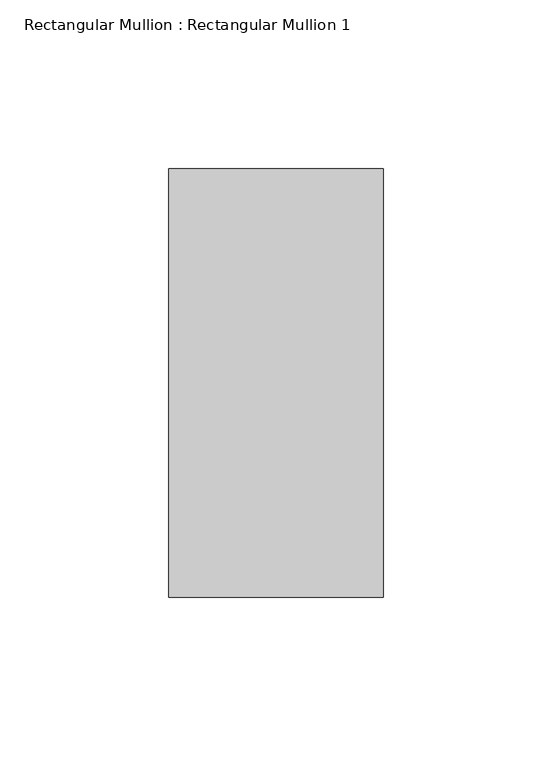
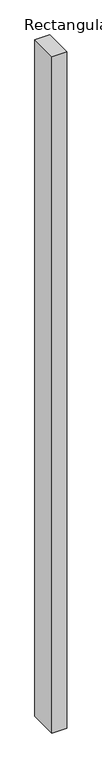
"""IFC4 building model written with IfcOpenShell, lengths in millimetres: member geometry, Rectangular Mullion : Rectangular Mullion 1."""

import ifcopenshell
import ifcopenshell.guid

model = None  # the IFC model being written
_history = None  # IfcOwnerHistory: only IFC2X3 demands one
_inside = {}  # id of a spatial element -> (the spatial element, [elements in it])
_under = {}  # id of a project, library or spatial element -> (it, [spatial elements below it])
_declared = {}  # id of a project -> (the project, [libraries it declares])
_typed = {}  # id of a type object -> (the type object, [elements of that type])
_made_of = {}  # id of a material, layer set ... -> (it, [elements and type objects made of it])


def new_model(schema):
    """Start an empty IFC model of exactly this schema.

    Asked for "IFC4X3", IfcOpenShell would pick the latest addendum, in which some entities
    have other attributes; the version numbers below select the first issue.
    IFC2X3 requires an IfcOwnerHistory on every rooted entity: one is made here for all.
    """
    global model, _history
    if schema == "IFC4X3":
        model = ifcopenshell.file(schema_version=(4, 3, 0, 0))
    else:
        model = ifcopenshell.file(schema=schema)
    _inside.clear()
    _under.clear()
    _declared.clear()
    _typed.clear()
    _made_of.clear()
    _history = None
    if model.schema == "IFC2X3":
        org = make("IfcOrganization", Name="unknown")
        user = make(
            "IfcPersonAndOrganization",
            ThePerson=make("IfcPerson", FamilyName="unknown"),
            TheOrganization=org,
        )
        app = make(
            "IfcApplication",
            ApplicationDeveloper=org,
            Version="unknown",
            ApplicationFullName="unknown",
            ApplicationIdentifier="unknown",
        )
        _history = make(
            "IfcOwnerHistory",
            OwningUser=user,
            OwningApplication=app,
            ChangeAction="ADDED",
            CreationDate=0,
        )
    return model


def make(cls, **values):
    """One entity of the class cls with the attributes given. An attribute that is None is left unset."""
    return model.create_entity(
        cls, **{name: value for name, value in values.items() if value is not None}
    )


def rooted(cls, **values):
    """An entity with a GlobalId (a new one), such as an element, a storey or a relation."""
    return make(cls, GlobalId=ifcopenshell.guid.new(), OwnerHistory=_history, **values)


def si_unit(unit_type, name, prefix=None):
    """IfcSIUnit, for example si_unit("LENGTHUNIT", "METRE", prefix="MILLI")."""
    return make("IfcSIUnit", UnitType=unit_type, Prefix=prefix, Name=name)


def assignment(units):
    """IfcUnitAssignment: the units of a project."""
    return None if units is None else make("IfcUnitAssignment", Units=units)


def point(xyz):
    """IfcCartesianPoint."""
    return None if xyz is None else make("IfcCartesianPoint", Coordinates=xyz)


def direction(xyz):
    """IfcDirection."""
    return None if xyz is None else make("IfcDirection", DirectionRatios=xyz)


def frame(location, z_axis=None, x_axis=None):
    """IfcAxis2Placement3D, a coordinate frame: its origin and axes. An axis left out is left unset."""
    return make(
        "IfcAxis2Placement3D",
        Location=point(location),
        Axis=direction(z_axis),
        RefDirection=direction(x_axis),
    )


def origin():
    """The frame at (0, 0, 0) with its axes left unset."""
    return frame((0.0, 0.0, 0.0))


def place(relative_to, where):
    """IfcLocalPlacement: puts the frame where relative to a parent placement (None: the world)."""
    return make(
        "IfcLocalPlacement", PlacementRelTo=relative_to, RelativePlacement=where
    )


def context(
    kind, dimensions, precision=None, world=None, true_north=None, identifier=None
):
    """IfcGeometricRepresentationContext, for example the 3D "Model" context."""
    return make(
        "IfcGeometricRepresentationContext",
        ContextIdentifier=identifier,
        ContextType=kind,
        CoordinateSpaceDimension=dimensions,
        Precision=precision,
        WorldCoordinateSystem=world,
        TrueNorth=true_north,
    )


def project(units=None, contexts=None):
    """IfcProject with its units and contexts."""
    return rooted(
        "IfcProject",
        Name="project",
        RepresentationContexts=contexts,
        UnitsInContext=assignment(units),
    )


def spatial(cls, under=None, at=None, **own):
    """A site, building, storey or space (cls), placed at a placement, below another one or the project."""
    s = rooted(cls, ObjectPlacement=at, **own)
    if under is not None:
        _under.setdefault(under.id(), (under, []))[1].append(s)
    return s


def polyline(points):
    """IfcPolyline through the points."""
    return make("IfcPolyline", Points=[point(p) for p in points])


def outline(outer, holes=None, kind="AREA"):
    """IfcArbitraryClosedProfileDef: a profile drawn as a closed curve; with holes, ...WithVoids."""
    if holes is None:
        return make("IfcArbitraryClosedProfileDef", ProfileType=kind, OuterCurve=outer)
    return make(
        "IfcArbitraryProfileDefWithVoids",
        ProfileType=kind,
        OuterCurve=outer,
        InnerCurves=holes,
    )


def extrude(swept, where, along, depth):
    """IfcExtrudedAreaSolid: the profile swept, set in the frame where, extruded along a direction by depth."""
    return make(
        "IfcExtrudedAreaSolid",
        SweptArea=swept,
        Position=where,
        ExtrudedDirection=direction(along),
        Depth=depth,
    )


def shape(context_of_items, identifier, shape_type, items):
    """IfcShapeRepresentation: the items that make up one representation, for example the "Body"."""
    return make(
        "IfcShapeRepresentation",
        ContextOfItems=context_of_items,
        RepresentationIdentifier=identifier,
        RepresentationType=shape_type,
        Items=items,
    )


def source(mapping_origin, context_of_items, identifier, shape_type, items):
    """IfcRepresentationMap: a shape defined once, which mapped items show again and again."""
    return make(
        "IfcRepresentationMap",
        MappingOrigin=mapping_origin,
        MappedRepresentation=shape(context_of_items, identifier, shape_type, items),
    )


def transform(
    local_origin,
    x_axis=None,
    y_axis=None,
    z_axis=None,
    scale=None,
    scale2=None,
    scale3=None,
    uniform=True,
):
    """IfcCartesianTransformationOperator3D, or its non-uniform kind. x_axis, y_axis, z_axis: its Axis1, 2, 3."""
    if uniform:
        return make(
            "IfcCartesianTransformationOperator3D",
            Axis1=direction(x_axis),
            Axis2=direction(y_axis),
            LocalOrigin=point(local_origin),
            Scale=scale,
            Axis3=direction(z_axis),
        )
    return make(
        "IfcCartesianTransformationOperator3DnonUniform",
        Axis1=direction(x_axis),
        Axis2=direction(y_axis),
        LocalOrigin=point(local_origin),
        Scale=scale,
        Axis3=direction(z_axis),
        Scale2=scale2,
        Scale3=scale3,
    )


def mapped(mapping_source, mapping_target):
    """IfcMappedItem: shows the shape of a source again, moved by a transform."""
    return make(
        "IfcMappedItem", MappingSource=mapping_source, MappingTarget=mapping_target
    )


def made_of(thing, what):
    """Note that an element or type object is made of a material, layer set ...; save() writes the relation."""
    if what is not None:
        _made_of.setdefault(what.id(), (what, []))[1].append(thing)
    return thing


def element(
    cls,
    number,
    at=None,
    inside=None,
    cuts=None,
    type_object=None,
    material=None,
    context=None,
    identifier="Body",
    shape_type=None,
    held_by="IfcProductDefinitionShape",
    body=None,
    shapes=None,
    **own,
):
    """One element of the class cls, such as IfcWall. Its Tag is "e" and its number.

    at: its placement. inside: the storey or other place that contains it. cuts: it is an
    opening in that element (IfcRelVoidsElement). A single representation is given by context,
    identifier, shape_type and body (its items); several are given by shapes. held_by: the class
    of the entity that holds the representations. save() writes the other relations.
    """
    e = rooted(cls, Tag="e%d" % number, ObjectPlacement=at, **own)
    if body is not None:
        shapes = [shape(context, identifier, shape_type, body)]
    if shapes is not None:
        e.Representation = make(held_by, Representations=shapes)
    if inside is not None:
        _inside.setdefault(inside.id(), (inside, []))[1].append(e)
    if cuts is not None:
        rooted(
            "IfcRelVoidsElement", RelatingBuildingElement=cuts, RelatedOpeningElement=e
        )
    if type_object is not None:
        _typed.setdefault(type_object.id(), (type_object, []))[1].append(e)
    return made_of(e, material)


def aggregate(whole, parts):
    """IfcRelAggregates: a whole, such as a stair, and the parts it consists of."""
    return rooted("IfcRelAggregates", RelatingObject=whole, RelatedObjects=parts)


def save(model, path):
    """Write the relations noted so far, then the file.

    IfcRelAggregates (storeys below a building ...), IfcRelContainedInSpatialStructure (elements
    in a storey), IfcRelDefinesByType, IfcRelAssociatesMaterial and IfcRelDeclares: one each for
    every whole, place, type object, material and project.
    """
    for whole, parts in _under.values():
        aggregate(whole, parts)
    for where, things in _inside.values():
        rooted(
            "IfcRelContainedInSpatialStructure",
            RelatedElements=things,
            RelatingStructure=where,
        )
    for kind, things in _typed.values():
        rooted("IfcRelDefinesByType", RelatedObjects=things, RelatingType=kind)
    for what, things in _made_of.values():
        rooted("IfcRelAssociatesMaterial", RelatedObjects=things, RelatingMaterial=what)
    for by, libraries in _declared.values():
        rooted("IfcRelDeclares", RelatingContext=by, RelatedDefinitions=libraries)
    model.write(path)


def rectangular_mullion_rectangular_mullion_1_b03e071e(model_context):
    return source(origin(), model_context, "Body", "SweptSolid", [
        extrude(outline(polyline([(31.75, 63.5), (31.75, -63.5), (-31.75, -63.5), (-31.75, 63.5), (31.75, 63.5)])), frame((0.0, 0.0, -3079.75), z_axis=(0.0, 0.0, 1.0), x_axis=(1.0, 0.0, 0.0)), (0.0, 0.0, 1.0), 3079.75),
    ])


if __name__ == "__main__":
    model = new_model("IFC4")
    model_context = context("Model", 3, world=origin())
    ifc_project = project(units=[si_unit("LENGTHUNIT", "METRE", prefix="MILLI")], contexts=[model_context])
    site = spatial("IfcSite", under=ifc_project)
    building = spatial("IfcBuilding", under=site)
    placement = place(None, origin())
    rectangular_mullion_rectangular_mullion_1_shape = rectangular_mullion_rectangular_mullion_1_b03e071e(model_context)
    element("IfcMember", 1, ObjectType="Rectangular Mullion : Rectangular Mullion 1", at=placement, inside=building, context=model_context, shape_type="MappedRepresentation", body=[
        mapped(rectangular_mullion_rectangular_mullion_1_shape, transform((0.0, 0.0, 0.0), x_axis=(1.0, 0.0, 0.0), y_axis=(0.0, 1.0, 0.0), z_axis=(0.0, 0.0, 1.0))),
    ])
    save(model, "model.ifc")
